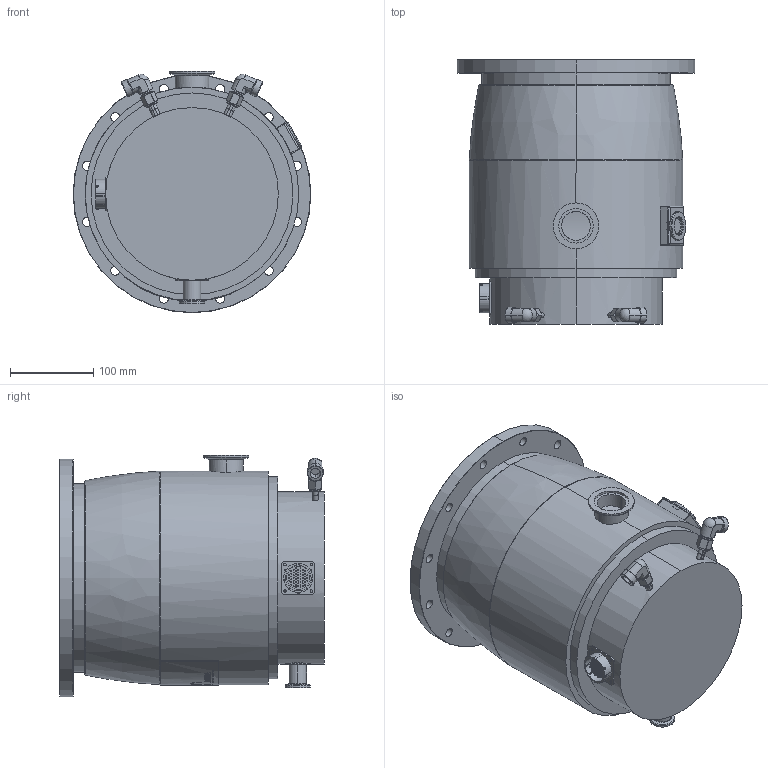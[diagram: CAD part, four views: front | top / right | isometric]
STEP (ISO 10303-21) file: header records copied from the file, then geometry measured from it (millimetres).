
FILE_DESCRIPTION((''),'2;1');
FILE_NAME('ENV-ATH1600M-P2562100','2009-08-19T',('NVARENNES'),(''),'PRO/ENGINEER BY PARAMETRIC TECHNOLOGY CORPORATION, 2008010','PRO/ENGINEER BY PARAMETRIC TECHNOLOGY CORPORATION, 2008010','');
FILE_SCHEMA(('CONFIG_CONTROL_DESIGN'));
Length unit declared in the file: millimetre
Products named in the file (1): ENV-ATH1600M-P2562100
Bounding box: 285 x 317.22 x 289.5 mm (x, y, z)
Volume: 14855564.1 mm3; surface area: 427662.6 mm2
Topology: 1 solids, 3 shells, 860 faces, 2163 edges, 1307 vertices
Faces by surface type: cylinder 308, plane 214, bspline 164, sphere 112, cone 34, torus 28
Entity records: 32889 total; most frequent: CARTESIAN_POINT 12593, ORIENTED_EDGE 4102, DIRECTION 3862, EDGE_CURVE 2051, AXIS2_PLACEMENT_3D 1524, VERTEX_POINT 1307, EDGE_LOOP 1014, FACE_OUTER_BOUND 860
